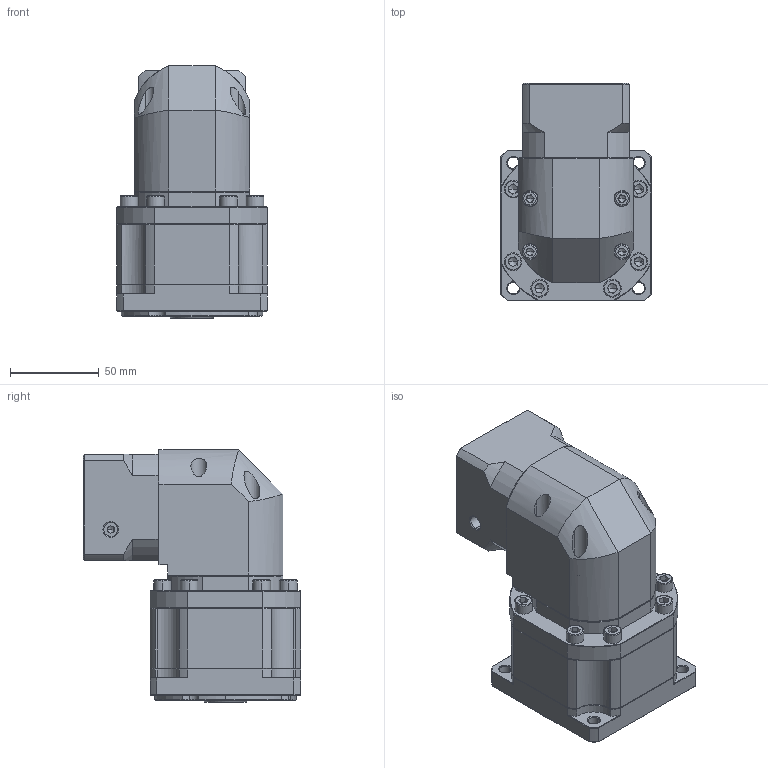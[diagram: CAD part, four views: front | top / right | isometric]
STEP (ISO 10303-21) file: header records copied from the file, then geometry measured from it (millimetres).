
FILE_DESCRIPTION (( 'STEP AP214' ), '1' );
FILE_NAME ('ZBR090-K15-L2-P2-11-50-70-M4.step', '2023-08-19T04:00:47', ( '' ), ( '' ), 'SwSTEP 2.0', 'SolidWorks 2016', '' );
FILE_SCHEMA (( 'AUTOMOTIVE_DESIGN' ));
Length unit declared in the file: millimetre
Products named in the file (1): ZBR090-K15-L2-P2-11-50-70-M4
Bounding box: 85 x 122.7 x 142.5 mm (x, y, z)
Volume: 782827.1 mm3; surface area: 97757.9 mm2
Topology: 5 solids, 5 shells, 2380 faces, 6337 edges, 4058 vertices
Faces by surface type: plane 1171, bspline 416, cylinder 410, cone 363, torus 20
Entity records: 121160 total; most frequent: CARTESIAN_POINT 38840, ORIENTED_EDGE 12586, DIRECTION 10190, EDGE_CURVE 6293, VERTEX_POINT 4058, LINE 3970, VECTOR 3970, AXIS2_PLACEMENT_3D 3110
